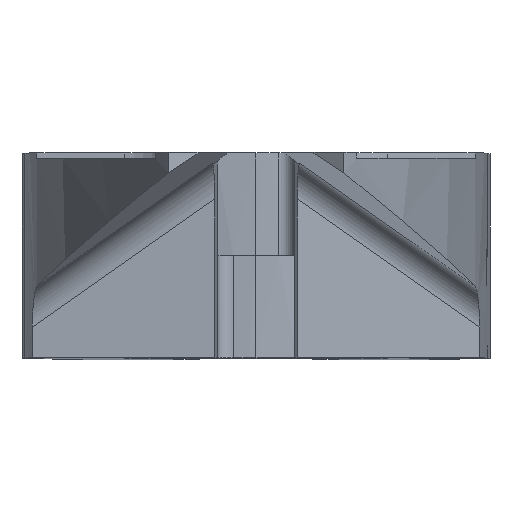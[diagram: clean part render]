
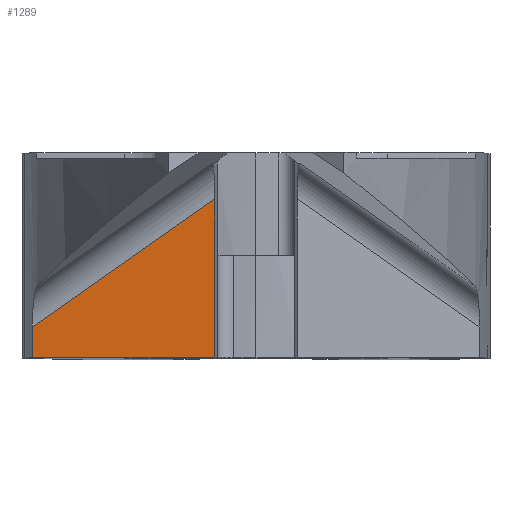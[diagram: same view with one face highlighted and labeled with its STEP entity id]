
A CAD part, top view. The second image highlights one B-rep face of the part: STEP entity #1289.
In plain terms, the highlighted planar face has unit normal (-0.091, 0, 0.996).
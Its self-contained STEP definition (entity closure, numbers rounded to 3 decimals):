
#99 = FACE_OUTER_BOUND ( 'NONE', #2793, .T. ) ;
#164 = CARTESIAN_POINT ( 'NONE',  ( -1.408, -3.771, 33.913 ) ) ;
#178 = EDGE_CURVE ( 'NONE', #1912, #1865, #604, .T. ) ;
#397 = ORIENTED_EDGE ( 'NONE', *, *, #178, .T. ) ;
#524 = PLANE ( 'NONE',  #3020 ) ;
#545 = VERTEX_POINT ( 'NONE', #922 ) ;
#550 = LINE ( 'NONE', #2828, #1999 ) ;
#604 = LINE ( 'NONE', #164, #2739 ) ;
#692 = CARTESIAN_POINT ( 'NONE',  ( -7.636, -9.2, 33.344 ) ) ;
#706 = DIRECTION ( 'NONE',  ( 0.996, 0., 0.091 ) ) ;
#922 = CARTESIAN_POINT ( 'NONE',  ( -1.408, -9.2, 33.913 ) ) ;
#1047 = CARTESIAN_POINT ( 'NONE',  ( -1.408, -6.485, 33.913 ) ) ;
#1139 = CARTESIAN_POINT ( 'NONE',  ( -7.636, -9.2, 33.344 ) ) ;
#1149 = DIRECTION ( 'NONE',  ( 0., 1., 0. ) ) ;
#1168 = ORIENTED_EDGE ( 'NONE', *, *, #3158, .F. ) ;
#1202 = VECTOR ( 'NONE', #3343, 1000. ) ;
#1289 = ADVANCED_FACE ( 'NONE', ( #99 ), #524, .T. ) ;
#1301 = EDGE_CURVE ( 'NONE', #545, #1912, #2873, .T. ) ;
#1326 = DIRECTION ( 'NONE',  ( 0., 1., 0. ) ) ;
#1579 = CARTESIAN_POINT ( 'NONE',  ( -1.408, -3.771, 33.913 ) ) ;
#1865 = VERTEX_POINT ( 'NONE', #2588 ) ;
#1912 = VERTEX_POINT ( 'NONE', #1579 ) ;
#1927 = ORIENTED_EDGE ( 'NONE', *, *, #2623, .F. ) ;
#1999 = VECTOR ( 'NONE', #1149, 1000. ) ;
#2121 = VECTOR ( 'NONE', #1326, 1000. ) ;
#2332 = ORIENTED_EDGE ( 'NONE', *, *, #1301, .T. ) ;
#2486 = CARTESIAN_POINT ( 'NONE',  ( -0.91, -9.2, 33.959 ) ) ;
#2588 = CARTESIAN_POINT ( 'NONE',  ( -7.636, -8.15, 33.344 ) ) ;
#2623 = EDGE_CURVE ( 'NONE', #545, #2633, #3398, .T. ) ;
#2633 = VERTEX_POINT ( 'NONE', #1139 ) ;
#2739 = VECTOR ( 'NONE', #2998, 1000. ) ;
#2793 = EDGE_LOOP ( 'NONE', ( #1927, #2332, #397, #1168 ) ) ;
#2828 = CARTESIAN_POINT ( 'NONE',  ( -7.636, -5.7, 33.344 ) ) ;
#2873 = LINE ( 'NONE', #1047, #2121 ) ;
#2998 = DIRECTION ( 'NONE',  ( -0.816, -0.574, -0.075 ) ) ;
#3020 = AXIS2_PLACEMENT_3D ( 'NONE', #692, #3252, #706 ) ;
#3158 = EDGE_CURVE ( 'NONE', #2633, #1865, #550, .T. ) ;
#3252 = DIRECTION ( 'NONE',  ( -0.091, 0., 0.996 ) ) ;
#3343 = DIRECTION ( 'NONE',  ( -0.996, 0., -0.091 ) ) ;
#3398 = LINE ( 'NONE', #2486, #1202 ) ;
